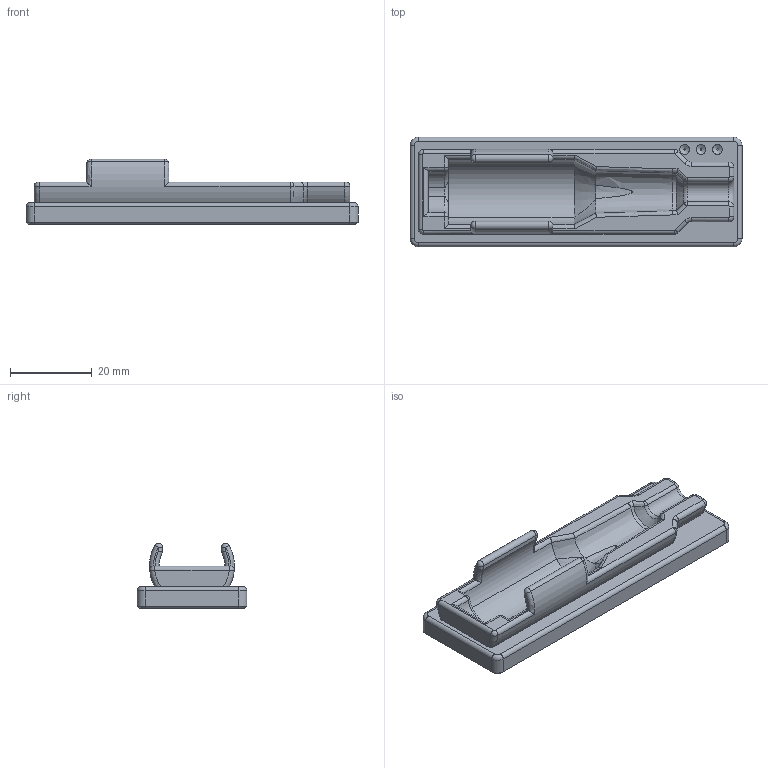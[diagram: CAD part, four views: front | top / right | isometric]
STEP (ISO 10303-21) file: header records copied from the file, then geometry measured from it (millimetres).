
FILE_DESCRIPTION(('Open CASCADE Model'),'2;1');
FILE_NAME('Open CASCADE Shape Model','2026-10-12T20:44:11',('Author'),( 'Open CASCADE'),'Open CASCADE STEP processor 8.0','build123d', 'Unknown');
FILE_SCHEMA(('AUTOMOTIVE_DESIGN { 1 0 10303 214 1 1 1 1 }'));
Length unit declared in the file: millimetre
Products named in the file (1): COMPOUND
Bounding box: 81.09 x 26.8 x 15.99 mm (x, y, z)
Volume: 14759.8 mm3; surface area: 7447.6 mm2
Topology: 1 solids, 1 shells, 145 faces, 348 edges, 201 vertices
Faces by surface type: cylinder 48, plane 29, torus 25, bspline 24, cone 15, sphere 4
Entity records: 14468 total; most frequent: CARTESIAN_POINT 8288, DIRECTION 980, ORIENTED_EDGE 680, PCURVE 680, DEFINITIONAL_REPRESENTATION 680, LINE 467, VECTOR 467, B_SPLINE_CURVE_WITH_KNOTS 349
